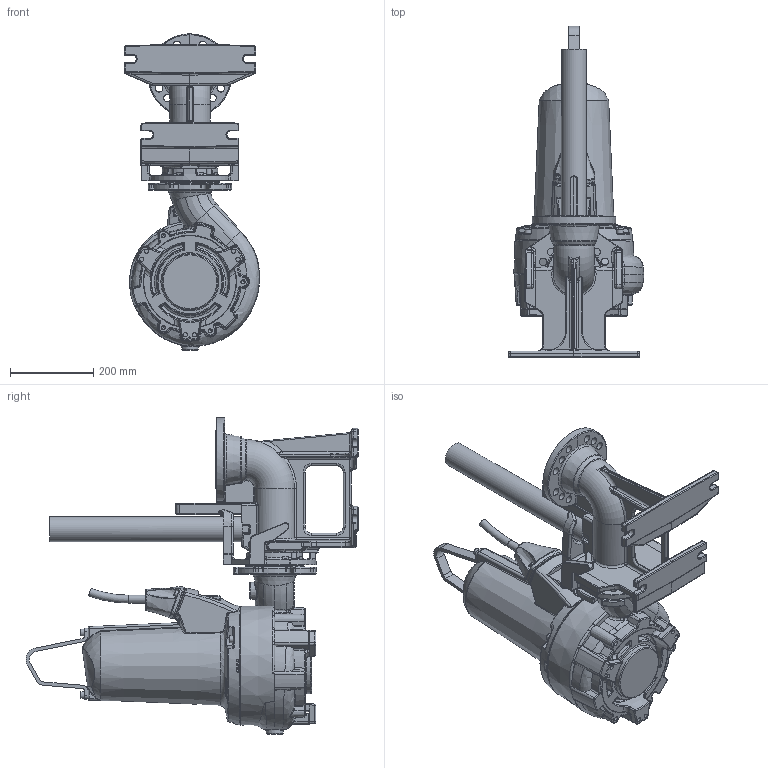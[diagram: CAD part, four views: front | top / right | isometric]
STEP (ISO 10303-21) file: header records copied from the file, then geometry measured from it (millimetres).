
FILE_DESCRIPTION (( 'STEP AP203' ), '1' );
FILE_NAME ('XFP80C-CB1_PE1_Wet_2Inch Rail-.step', '2024-01-16T15:14:17', ( '' ), ( '' ), 'SwSTEP 2.0', 'SolidWorks 2017', '' );
FILE_SCHEMA (( 'CONFIG_CONTROL_DESIGN' ));
Products named in the file (2): XFP80C-CB1_PE1_Wet_2Inch Rail-
Bounding box: 324.94 x 796.86 x 759 mm (x, y, z)
Volume: 30073147 mm3; surface area: 1403827.5 mm2
Topology: 6 solids, 11 shells, 2667 faces, 6481 edges, 3689 vertices
Faces by surface type: bspline 935, cylinder 730, plane 512, torus 264, sphere 133, cone 93
Full cylindrical faces by diameter (mm): 6 x1, 6.8 x4, 8 x8, 8.5 x9, 9 x2, 10 x11, 10.5 x3, 11 x3, 13 x4, 15 x2, 16 x5, 18 x24, 18.7 x1, 50 x1, 60 x1, 138 x1, 222 x1
Entity records: 125095 total; most frequent: CARTESIAN_POINT 72127, ORIENTED_EDGE 12178, DIRECTION 9424, EDGE_CURVE 6089, AXIS2_PLACEMENT_3D 3872, VERTEX_POINT 3611, EDGE_LOOP 2912, FACE_OUTER_BOUND 2775
